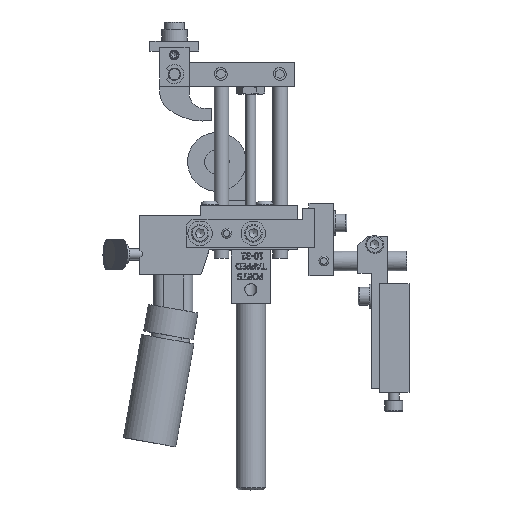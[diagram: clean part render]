
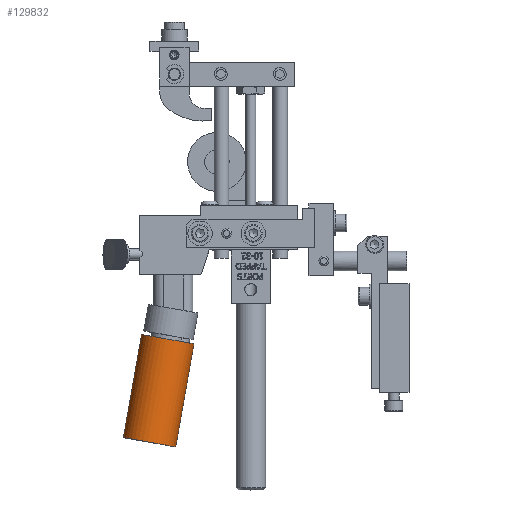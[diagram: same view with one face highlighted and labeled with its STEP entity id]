
A CAD part, top view. The second image highlights one B-rep face of the part: STEP entity #129832.
In plain terms, the highlighted cylindrical face has radius 8.636 mm (diameter 17.272 mm), a full revolution.
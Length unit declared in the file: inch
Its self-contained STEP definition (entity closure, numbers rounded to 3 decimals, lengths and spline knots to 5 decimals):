
#129785=CARTESIAN_POINT('',(-0.93754,-4.71993,-0.55726));
#129786=VERTEX_POINT('',#129785);
#129787=CARTESIAN_POINT('',(-0.8449,-4.73627,-0.23053));
#129788=DIRECTION('',(-0.174,-0.985,0.));
#129789=DIRECTION('',(0.272,-0.048,0.961));
#129790=AXIS2_PLACEMENT_3D('',#129787,#129788,#129789);
#129791=CIRCLE('',#129790,0.34);
#129792=EDGE_CURVE('',#129786,#129786,#129791,.T.);
#129813=CARTESIAN_POINT('',(-0.8449,-4.73627,-0.23053));
#129814=DIRECTION('',(0.174,0.985,0.));
#129815=DIRECTION('',(0.272,-0.048,0.961));
#129816=AXIS2_PLACEMENT_3D('',#129813,#129814,#129815);
#129817=CYLINDRICAL_SURFACE('',#129816,0.34);
#129818=CARTESIAN_POINT('',(-0.70572,-3.40521,-0.55725));
#129819=VERTEX_POINT('',#129818);
#129820=CARTESIAN_POINT('',(-0.61308,-3.42155,-0.23053));
#129821=DIRECTION('',(-0.174,-0.985,0.));
#129822=DIRECTION('',(0.272,-0.048,0.961));
#129823=AXIS2_PLACEMENT_3D('',#129820,#129821,#129822);
#129824=CIRCLE('',#129823,0.34);
#129825=EDGE_CURVE('',#129819,#129819,#129824,.T.);
#129826=ORIENTED_EDGE('',*,*,#129825,.T.);
#129827=EDGE_LOOP('',(#129826));
#129828=FACE_OUTER_BOUND('',#129827,.T.);
#129829=ORIENTED_EDGE('',*,*,#129792,.F.);
#129830=EDGE_LOOP('',(#129829));
#129831=FACE_BOUND('',#129830,.T.);
#129832=ADVANCED_FACE('',(#129828,#129831),#129817,.T.);
